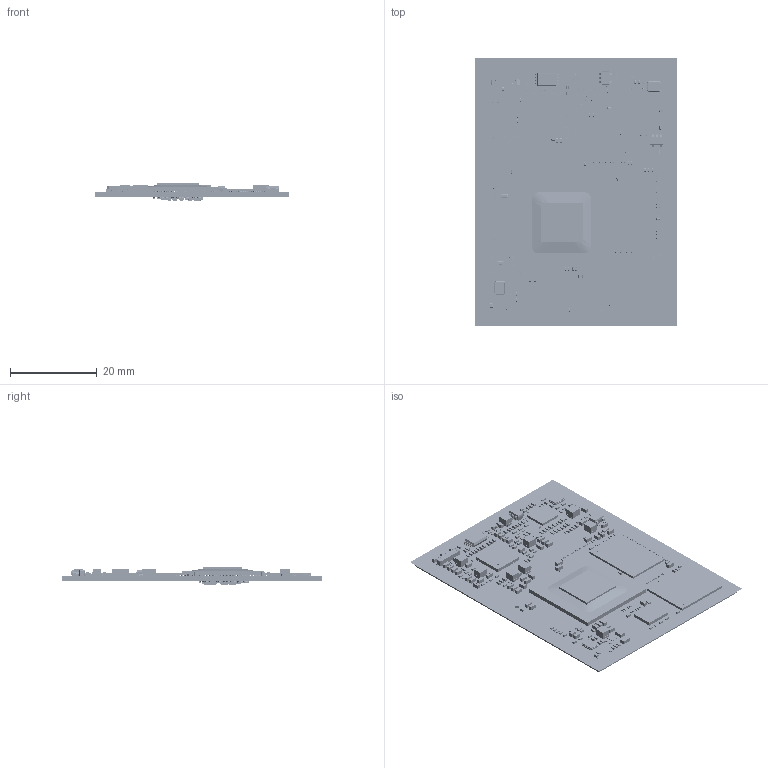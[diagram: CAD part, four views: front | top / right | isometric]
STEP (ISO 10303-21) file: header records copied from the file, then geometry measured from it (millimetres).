
FILE_DESCRIPTION(/* description */ ('PCB Design'),/* implementation_level */ '2;1');
FILE_NAME(/* name */ 'CM3568 3D',/* time_stamp */ '2023-04-13T11:24:58+08:00',/* author */ (''),/* organization */ (''),/* preprocessor_version */ 'ST-DEVELOPER v16',/* originating_system */ 'allegro_17.2S053',/* authorisation */ '');
FILE_SCHEMA (('AUTOMOTIVE_DESIGN { 1 0 10303 214 3 1 1 }'));
Products named in the file (273): CM3568 V2; BOARD_OUTLINE; COMPONENTS; CM3568_45X60MM_202PIN_PITCH1MM; TP_0R70; EMI_CLIP; BGA153_13RX11R5X0R9_2L; L0402; WSON8_8R00X6R00X0R80_T; C0805; LED0603; IND_252012; IND_252010; L0603; CRY2_6R90X1R40X1R30; SOT_523; TSSOP8_3R10X3R10X1R10; CSP20_1R96X1R56X0R66; QFN40_5R00X5R00X0R90_T; QFN68_7R00X7R00X0R80_T; BGA636_19R00X19R00X1R20; R0402; C0603; C0402; C0201; R0603; BGA200_15R00X10R00X0R90; CRY4_3R20X2R50X0R80; SOT_23_5; A3025639-B606-49D8-87C5-9FA25282E8C4; User Library-INDC1005X___; Power pad; User Library-WSON-8; Case; Pad; User Library-C0805-2; Fillet; Pocket002; User Library-LED_0603_R; Pocket001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
Assembly tree (690 placements, depth 7):
  CM3568 V2
    BOARD_OUTLINE
    COMPONENTS
      CM3568_45X60MM_202PIN_PITCH1MM
      TP_0R70  x8
      EMI_CLIP  x9
      BGA153_13RX11R5X0R9_2L
        A3025639-B606-49D8-87C5-9FA25282E8C4
      L0402  x2
        User Library-INDC1005X___
      WSON8_8R00X6R00X0R80_T
        User Library-WSON-8
          Case
          Pad  x8
          Power pad
      C0805  x2
        User Library-C0805-2
      LED0603
        User Library-LED_0603_R
          Pocket002
          Pad004
          Fillet
          Pocket001
          Pad
      IND_252012  x3
        User Library-INDM2520X190N
      IND_252010  x6
        User Library-INDM2520X190N
      L0603  x7
        User Library-INDC1608X___
      CRY2_6R90X1R40X1R30
        User Library-CSYTAL-MC146
      SOT_523
        9374BE2C-ED46-4905-B2DF-BD476E2613E9
      TSSOP8_3R10X3R10X1R10
        4E4B9721-5512-4EAC-BC09-40BE9565364F
      CSP20_1R96X1R56X0R66
      QFN40_5R00X5R00X0R90_T
        User Library-QFN 40 5x5 pitch 0.4.STEP
      QFN68_7R00X7R00X0R80_T
        User Library-QFN35P700X700X80_HS-69N
          6073041616
            Open_CASCADE_STEP_translator_6.8_1.1
            Body
              Open_CASCADE_STEP_translator_6.8_1.2.1
            Thermal_Shape
            Pin_Shape  x68
              Open_CASCADE_STEP_translator_6.8_1.4.1
      BGA636_19R00X19R00X1R20
        427624AD-6C45-4308-A094-245E4585C4E2
      R0402  x75
        0
        CR1005-04021
      C0603  x50
        0
        C0603-1
      C0402  x81
        0
        SC0402
      C0201  x109
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Bounding box: 46.73 x 61.77 x 4.25 mm (x, y, z)
Volume: 1060.8 mm3; surface area: 17155.4 mm2
Topology: 2252 solids, 2598 shells, 55691 faces, 135696 edges, 85804 vertices
Faces by surface type: bspline 34622, plane 15094, cylinder 3146, sphere 2745, torus 80, cone 4
Entity records: 135351 total; most frequent: CARTESIAN_POINT 39699, DIRECTION 13261, ORIENTED_EDGE 12649, EDGE_CURVE 6334, AXIS2_PLACEMENT_3D 5665, VERTEX_POINT 4694, EDGE_LOOP 3569, FACE_OUTER_BOUND 3504
